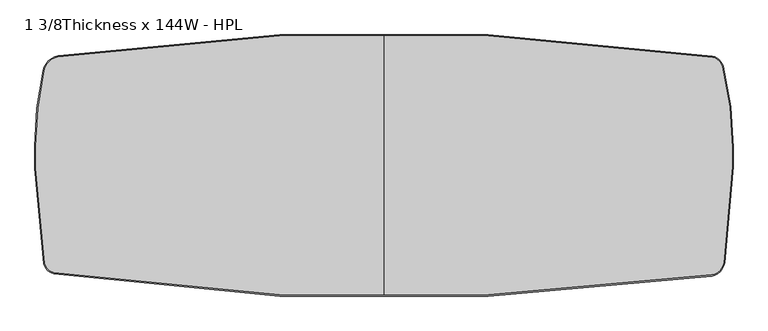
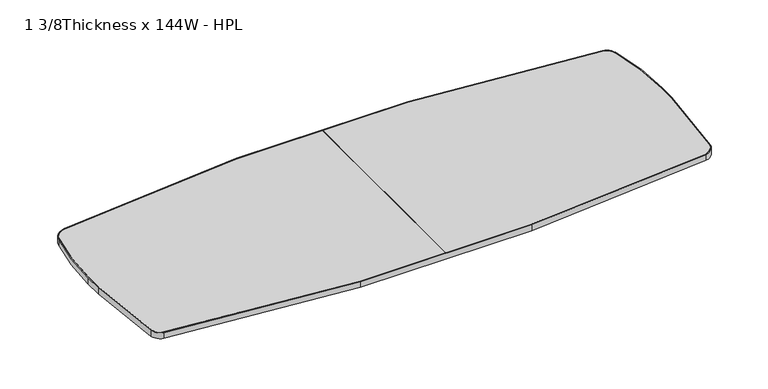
"""IFC4 building model written with IfcOpenShell, lengths in millimetres: furniture geometry, Steelcase - Groupwork - Table - Conference Table Top - Boat Shaped : 1 3/8Thickness x 144W - HPL."""

import ifcopenshell
import ifcopenshell.guid

model = None  # the IFC model being written
_history = None  # IfcOwnerHistory: only IFC2X3 demands one
_inside = {}  # id of a spatial element -> (the spatial element, [elements in it])
_under = {}  # id of a project, library or spatial element -> (it, [spatial elements below it])
_declared = {}  # id of a project -> (the project, [libraries it declares])
_typed = {}  # id of a type object -> (the type object, [elements of that type])
_made_of = {}  # id of a material, layer set ... -> (it, [elements and type objects made of it])


def new_model(schema):
    """Start an empty IFC model of exactly this schema.

    Asked for "IFC4X3", IfcOpenShell would pick the latest addendum, in which some entities
    have other attributes; the version numbers below select the first issue.
    IFC2X3 requires an IfcOwnerHistory on every rooted entity: one is made here for all.
    """
    global model, _history
    if schema == "IFC4X3":
        model = ifcopenshell.file(schema_version=(4, 3, 0, 0))
    else:
        model = ifcopenshell.file(schema=schema)
    _inside.clear()
    _under.clear()
    _declared.clear()
    _typed.clear()
    _made_of.clear()
    _history = None
    if model.schema == "IFC2X3":
        org = make("IfcOrganization", Name="unknown")
        user = make(
            "IfcPersonAndOrganization",
            ThePerson=make("IfcPerson", FamilyName="unknown"),
            TheOrganization=org,
        )
        app = make(
            "IfcApplication",
            ApplicationDeveloper=org,
            Version="unknown",
            ApplicationFullName="unknown",
            ApplicationIdentifier="unknown",
        )
        _history = make(
            "IfcOwnerHistory",
            OwningUser=user,
            OwningApplication=app,
            ChangeAction="ADDED",
            CreationDate=0,
        )
    return model


def make(cls, **values):
    """One entity of the class cls with the attributes given. An attribute that is None is left unset."""
    return model.create_entity(
        cls, **{name: value for name, value in values.items() if value is not None}
    )


def rooted(cls, **values):
    """An entity with a GlobalId (a new one), such as an element, a storey or a relation."""
    return make(cls, GlobalId=ifcopenshell.guid.new(), OwnerHistory=_history, **values)


def si_unit(unit_type, name, prefix=None):
    """IfcSIUnit, for example si_unit("LENGTHUNIT", "METRE", prefix="MILLI")."""
    return make("IfcSIUnit", UnitType=unit_type, Prefix=prefix, Name=name)


def assignment(units):
    """IfcUnitAssignment: the units of a project."""
    return None if units is None else make("IfcUnitAssignment", Units=units)


def point(xyz):
    """IfcCartesianPoint."""
    return None if xyz is None else make("IfcCartesianPoint", Coordinates=xyz)


def direction(xyz):
    """IfcDirection."""
    return None if xyz is None else make("IfcDirection", DirectionRatios=xyz)


def frame(location, z_axis=None, x_axis=None):
    """IfcAxis2Placement3D, a coordinate frame: its origin and axes. An axis left out is left unset."""
    return make(
        "IfcAxis2Placement3D",
        Location=point(location),
        Axis=direction(z_axis),
        RefDirection=direction(x_axis),
    )


def frame_2d(location, x_axis=None):
    """IfcAxis2Placement2D, a coordinate frame in the plane: its origin and x axis."""
    return make(
        "IfcAxis2Placement2D", Location=point(location), RefDirection=direction(x_axis)
    )


def origin():
    """The frame at (0, 0, 0) with its axes left unset."""
    return frame((0.0, 0.0, 0.0))


def place(relative_to, where):
    """IfcLocalPlacement: puts the frame where relative to a parent placement (None: the world)."""
    return make(
        "IfcLocalPlacement", PlacementRelTo=relative_to, RelativePlacement=where
    )


def context(
    kind, dimensions, precision=None, world=None, true_north=None, identifier=None
):
    """IfcGeometricRepresentationContext, for example the 3D "Model" context."""
    return make(
        "IfcGeometricRepresentationContext",
        ContextIdentifier=identifier,
        ContextType=kind,
        CoordinateSpaceDimension=dimensions,
        Precision=precision,
        WorldCoordinateSystem=world,
        TrueNorth=true_north,
    )


def project(units=None, contexts=None):
    """IfcProject with its units and contexts."""
    return rooted(
        "IfcProject",
        Name="project",
        RepresentationContexts=contexts,
        UnitsInContext=assignment(units),
    )


def spatial(cls, under=None, at=None, **own):
    """A site, building, storey or space (cls), placed at a placement, below another one or the project."""
    s = rooted(cls, ObjectPlacement=at, **own)
    if under is not None:
        _under.setdefault(under.id(), (under, []))[1].append(s)
    return s


def polyline(points):
    """IfcPolyline through the points."""
    return make("IfcPolyline", Points=[point(p) for p in points])


def circle_curve(where, radius):
    """IfcCircle in the frame where."""
    return make("IfcCircle", Position=where, Radius=radius)


def trimmed(basis, trim1, trim2, sense, master):
    """IfcTrimmedCurve: the piece of a basis curve between two trims."""
    return make(
        "IfcTrimmedCurve",
        BasisCurve=basis,
        Trim1=trim1,
        Trim2=trim2,
        SenseAgreement=sense,
        MasterRepresentation=master,
    )


def segment(curve, same_sense, transition):
    """IfcCompositeCurveSegment."""
    return make(
        "IfcCompositeCurveSegment",
        Transition=transition,
        SameSense=same_sense,
        ParentCurve=curve,
    )


def composite_curve(segments, self_intersect=None):
    """IfcCompositeCurve: segments joined end to end."""
    return make("IfcCompositeCurve", Segments=segments, SelfIntersect=self_intersect)


def outline(outer, holes=None, kind="AREA"):
    """IfcArbitraryClosedProfileDef: a profile drawn as a closed curve; with holes, ...WithVoids."""
    if holes is None:
        return make("IfcArbitraryClosedProfileDef", ProfileType=kind, OuterCurve=outer)
    return make(
        "IfcArbitraryProfileDefWithVoids",
        ProfileType=kind,
        OuterCurve=outer,
        InnerCurves=holes,
    )


def extrude(swept, where, along, depth):
    """IfcExtrudedAreaSolid: the profile swept, set in the frame where, extruded along a direction by depth."""
    return make(
        "IfcExtrudedAreaSolid",
        SweptArea=swept,
        Position=where,
        ExtrudedDirection=direction(along),
        Depth=depth,
    )


def shape(context_of_items, identifier, shape_type, items):
    """IfcShapeRepresentation: the items that make up one representation, for example the "Body"."""
    return make(
        "IfcShapeRepresentation",
        ContextOfItems=context_of_items,
        RepresentationIdentifier=identifier,
        RepresentationType=shape_type,
        Items=items,
    )


def source(mapping_origin, context_of_items, identifier, shape_type, items):
    """IfcRepresentationMap: a shape defined once, which mapped items show again and again."""
    return make(
        "IfcRepresentationMap",
        MappingOrigin=mapping_origin,
        MappedRepresentation=shape(context_of_items, identifier, shape_type, items),
    )


def transform(
    local_origin,
    x_axis=None,
    y_axis=None,
    z_axis=None,
    scale=None,
    scale2=None,
    scale3=None,
    uniform=True,
):
    """IfcCartesianTransformationOperator3D, or its non-uniform kind. x_axis, y_axis, z_axis: its Axis1, 2, 3."""
    if uniform:
        return make(
            "IfcCartesianTransformationOperator3D",
            Axis1=direction(x_axis),
            Axis2=direction(y_axis),
            LocalOrigin=point(local_origin),
            Scale=scale,
            Axis3=direction(z_axis),
        )
    return make(
        "IfcCartesianTransformationOperator3DnonUniform",
        Axis1=direction(x_axis),
        Axis2=direction(y_axis),
        LocalOrigin=point(local_origin),
        Scale=scale,
        Axis3=direction(z_axis),
        Scale2=scale2,
        Scale3=scale3,
    )


def mapped(mapping_source, mapping_target):
    """IfcMappedItem: shows the shape of a source again, moved by a transform."""
    return make(
        "IfcMappedItem", MappingSource=mapping_source, MappingTarget=mapping_target
    )


def made_of(thing, what):
    """Note that an element or type object is made of a material, layer set ...; save() writes the relation."""
    if what is not None:
        _made_of.setdefault(what.id(), (what, []))[1].append(thing)
    return thing


def element(
    cls,
    number,
    at=None,
    inside=None,
    cuts=None,
    type_object=None,
    material=None,
    context=None,
    identifier="Body",
    shape_type=None,
    held_by="IfcProductDefinitionShape",
    body=None,
    shapes=None,
    **own,
):
    """One element of the class cls, such as IfcWall. Its Tag is "e" and its number.

    at: its placement. inside: the storey or other place that contains it. cuts: it is an
    opening in that element (IfcRelVoidsElement). A single representation is given by context,
    identifier, shape_type and body (its items); several are given by shapes. held_by: the class
    of the entity that holds the representations. save() writes the other relations.
    """
    e = rooted(cls, Tag="e%d" % number, ObjectPlacement=at, **own)
    if body is not None:
        shapes = [shape(context, identifier, shape_type, body)]
    if shapes is not None:
        e.Representation = make(held_by, Representations=shapes)
    if inside is not None:
        _inside.setdefault(inside.id(), (inside, []))[1].append(e)
    if cuts is not None:
        rooted(
            "IfcRelVoidsElement", RelatingBuildingElement=cuts, RelatedOpeningElement=e
        )
    if type_object is not None:
        _typed.setdefault(type_object.id(), (type_object, []))[1].append(e)
    return made_of(e, material)


def aggregate(whole, parts):
    """IfcRelAggregates: a whole, such as a stair, and the parts it consists of."""
    return rooted("IfcRelAggregates", RelatingObject=whole, RelatedObjects=parts)


def save(model, path):
    """Write the relations noted so far, then the file.

    IfcRelAggregates (storeys below a building ...), IfcRelContainedInSpatialStructure (elements
    in a storey), IfcRelDefinesByType, IfcRelAssociatesMaterial and IfcRelDeclares: one each for
    every whole, place, type object, material and project.
    """
    for whole, parts in _under.values():
        aggregate(whole, parts)
    for where, things in _inside.values():
        rooted(
            "IfcRelContainedInSpatialStructure",
            RelatedElements=things,
            RelatingStructure=where,
        )
    for kind, things in _typed.values():
        rooted("IfcRelDefinesByType", RelatedObjects=things, RelatingType=kind)
    for what, things in _made_of.values():
        rooted("IfcRelAssociatesMaterial", RelatedObjects=things, RelatingMaterial=what)
    for by, libraries in _declared.values():
        rooted("IfcRelDeclares", RelatingContext=by, RelatedDefinitions=libraries)
    model.write(path)


def furniture_1_3_8thickness_x_144w_hpl_966f59d3(model_context):
    return source(origin(), model_context, "Body", "SweptSolid", [
        extrude(outline(composite_curve([segment(polyline([(732.5215864, 1219.2), (1706.3664788, 1219.2)]), True, "CONTINUOUS"), segment(trimmed(circle_curve(frame_2d((1706.3664788, -4333.0645975)), 5552.2645975), [point((1706.3664788, 1219.2))], [point((2753.049586, 1119.6500139))], False, "CARTESIAN"), True, "CONTINUOUS"), segment(trimmed(circle_curve(frame_2d((2741.0789069, 1057.2885447)), 63.5), [point((2753.049586, 1119.6500139))], [point((2802.6964806, 1072.635356))], False, "CARTESIAN"), True, "CONTINUOUS"), segment(trimmed(circle_curve(frame_2d((1275.0446392, 692.15)), 1574.3218396), [point((2802.6964806, 1072.635356))], [point((2849.3664788, 692.15))], False, "CARTESIAN"), True, "CONTINUOUS"), segment(polyline([(2849.3664788, 692.15), (2849.3664788, 603.25)]), True, "CONTINUOUS"), segment(trimmed(circle_curve(frame_2d((236.21328, 603.25)), 2613.1531989), [point((2849.3664788, 603.25))], [point((2810.6637937, 155.1716667))], False, "CARTESIAN"), True, "CONTINUOUS"), segment(trimmed(circle_curve(frame_2d((2735.5923707, 168.2377086)), 76.2), [point((2810.6637937, 155.1716667))], [point((2749.1125035, 93.2467357))], False, "CARTESIAN"), True, "CONTINUOUS"), segment(trimmed(circle_curve(frame_2d((1706.3664788, 5876.9576085)), 5876.9576085), [point((2749.1125035, 93.2467357))], [point((1706.3664788, 0.0))], False, "CARTESIAN"), True, "CONTINUOUS"), segment(polyline([(1706.3664788, 0.0), (732.5215864, 0.0)]), True, "CONTINUOUS"), segment(trimmed(circle_curve(frame_2d((732.5215864, 5379.0678276)), 5379.0678276), [point((732.5215864, 0.0))], [point((-321.932488, 104.3643005))], False, "CARTESIAN"), True, "CONTINUOUS"), segment(trimmed(circle_curve(frame_2d((-310.3444077, 162.3314413)), 59.1140678), [point((-321.932488, 104.3643005))], [point((-368.4143762, 151.2701673))], False, "CARTESIAN"), True, "CONTINUOUS"), segment(trimmed(circle_curve(frame_2d((1971.0729471, 596.9)), 2381.5513607), [point((-368.4143762, 151.2701673))], [point((-410.4784136, 596.9))], False, "CARTESIAN"), True, "CONTINUOUS"), segment(polyline([(-410.4784136, 596.9), (-410.4784136, 698.5)]), True, "CONTINUOUS"), segment(trimmed(circle_curve(frame_2d((1250.6455185, 698.5)), 1661.1239321), [point((-410.4784136, 698.5))], [point((-372.0975001, 1053.5180462))], False, "CARTESIAN"), True, "CONTINUOUS"), segment(trimmed(circle_curve(frame_2d((-285.2515692, 1034.5181969)), 88.9), [point((-372.0975001, 1053.5180462))], [point((-301.8372903, 1121.8573282))], False, "CARTESIAN"), True, "CONTINUOUS"), segment(trimmed(circle_curve(frame_2d((732.5215864, -4324.9969173)), 5544.1969173), [point((-301.8372903, 1121.8573282))], [point((732.5215864, 1219.2))], False, "CARTESIAN"), True, "CONTINUOUS")], self_intersect=False), holes=[composite_curve([segment(trimmed(circle_curve(frame_2d((2741.0789069, 1057.2885447)), 58.42), [point((2797.7670747, 1071.4076111))], [point((2752.0919316, 1114.6610964))], True, "CARTESIAN"), True, "CONTINUOUS"), segment(trimmed(circle_curve(frame_2d((1706.3664788, -4333.0645975)), 5547.1845975), [point((2752.0919316, 1114.6610964))], [point((1706.3664788, 1214.12))], True, "CARTESIAN"), True, "CONTINUOUS"), segment(polyline([(1706.3664788, 1214.12), (732.5215864, 1214.12)]), True, "CONTINUOUS"), segment(trimmed(circle_curve(frame_2d((732.5215864, -4324.9969173)), 5539.1169173), [point((732.5215864, 1214.12))], [point((-300.8895348, 1116.8665207))], True, "CARTESIAN"), True, "CONTINUOUS"), segment(trimmed(circle_curve(frame_2d((-285.2515692, 1034.5181969)), 83.82), [point((-300.8895348, 1116.8665207))], [point((-367.1348755, 1052.4323405))], True, "CARTESIAN"), True, "CONTINUOUS"), segment(trimmed(circle_curve(frame_2d((1250.6455185, 698.5)), 1656.0439321), [point((-367.1348755, 1052.4323405))], [point((-405.3984136, 698.5))], True, "CARTESIAN"), True, "CONTINUOUS"), segment(polyline([(-405.3984136, 698.5), (-405.3984136, 596.9)]), True, "CONTINUOUS"), segment(trimmed(circle_curve(frame_2d((1971.0729471, 596.9)), 2376.4713607), [point((-405.3984136, 596.9))], [point((-363.4241014, 152.220724))], True, "CARTESIAN"), True, "CONTINUOUS"), segment(trimmed(circle_curve(frame_2d((-310.3444077, 162.3314413)), 54.0340678), [point((-363.4241014, 152.220724))], [point((-320.9366599, 109.3457387))], True, "CARTESIAN"), True, "CONTINUOUS"), segment(trimmed(circle_curve(frame_2d((732.5215864, 5379.0678276)), 5373.9878276), [point((-320.9366599, 109.3457387))], [point((732.5215864, 5.08))], True, "CARTESIAN"), True, "CONTINUOUS"), segment(polyline([(732.5215864, 5.08), (1706.3664788, 5.08)]), True, "CONTINUOUS"), segment(trimmed(circle_curve(frame_2d((1706.3664788, 5876.9576085)), 5871.8776085), [point((1706.3664788, 5.08))], [point((2748.2111613, 98.2461339))], True, "CARTESIAN"), True, "CONTINUOUS"), segment(trimmed(circle_curve(frame_2d((2735.5923707, 168.2377086)), 71.12), [point((2748.2111613, 98.2461339))], [point((2805.6590322, 156.0427362))], True, "CARTESIAN"), True, "CONTINUOUS"), segment(trimmed(circle_curve(frame_2d((236.21328, 603.25)), 2608.0731989), [point((2805.6590322, 156.0427362))], [point((2844.2864788, 603.25))], True, "CARTESIAN"), True, "CONTINUOUS"), segment(polyline([(2844.2864788, 603.25), (2844.2864788, 692.15)]), True, "CONTINUOUS"), segment(trimmed(circle_curve(frame_2d((1275.0446392, 692.15)), 1569.2418396), [point((2844.2864788, 692.15))], [point((2797.7670747, 1071.4076111))], True, "CARTESIAN"), True, "CONTINUOUS")], self_intersect=False)]), frame((0.0, 0.0, 694.944), z_axis=(0.0, 0.0, 1.0), x_axis=(1.0, 0.0, 0.0)), (0.0, 0.0, 1.0), 35.052),
        extrude(outline(composite_curve([segment(polyline([(732.5215864, 1214.12), (1217.6125, 1214.12), (1217.6125, 5.08), (732.5215864, 5.08)]), True, "CONTINUOUS"), segment(trimmed(circle_curve(frame_2d((732.5215864, 5379.0678276)), 5373.9878276), [point((732.5215864, 5.08))], [point((-320.9366599, 109.3457387))], False, "CARTESIAN"), True, "CONTINUOUS"), segment(trimmed(circle_curve(frame_2d((-310.3444077, 162.3314413)), 54.0340678), [point((-320.9366599, 109.3457387))], [point((-363.4241014, 152.220724))], False, "CARTESIAN"), True, "CONTINUOUS"), segment(trimmed(circle_curve(frame_2d((1971.0729471, 596.9)), 2376.4713607), [point((-363.4241014, 152.220724))], [point((-405.3984136, 596.9))], False, "CARTESIAN"), True, "CONTINUOUS"), segment(polyline([(-405.3984136, 596.9), (-405.3984136, 698.5)]), True, "CONTINUOUS"), segment(trimmed(circle_curve(frame_2d((1250.6455185, 698.5)), 1656.0439321), [point((-405.3984136, 698.5))], [point((-367.1348755, 1052.4323405))], False, "CARTESIAN"), True, "CONTINUOUS"), segment(trimmed(circle_curve(frame_2d((-285.2515692, 1034.5181969)), 83.82), [point((-367.1348755, 1052.4323405))], [point((-300.8895348, 1116.8665207))], False, "CARTESIAN"), True, "CONTINUOUS"), segment(trimmed(circle_curve(frame_2d((732.5215864, -4324.9969173)), 5539.1169173), [point((-300.8895348, 1116.8665207))], [point((732.5215864, 1214.12))], False, "CARTESIAN"), True, "CONTINUOUS")], self_intersect=False)), frame((0.0, 0.0, 694.944), z_axis=(0.0, 0.0, 1.0), x_axis=(1.0, 0.0, 0.0)), (0.0, 0.0, 1.0), 35.052),
        extrude(outline(composite_curve([segment(trimmed(circle_curve(frame_2d((2741.0789069, 1057.2885447)), 58.42), [point((2752.0919316, 1114.6610964))], [point((2797.7670747, 1071.4076111))], False, "CARTESIAN"), True, "CONTINUOUS"), segment(trimmed(circle_curve(frame_2d((1275.0446392, 692.15)), 1569.2418396), [point((2797.7670747, 1071.4076111))], [point((2844.2864788, 692.15))], False, "CARTESIAN"), True, "CONTINUOUS"), segment(polyline([(2844.2864788, 692.15), (2844.2864788, 603.25)]), True, "CONTINUOUS"), segment(trimmed(circle_curve(frame_2d((236.21328, 603.25)), 2608.0731989), [point((2844.2864788, 603.25))], [point((2805.6590322, 156.0427362))], False, "CARTESIAN"), True, "CONTINUOUS"), segment(trimmed(circle_curve(frame_2d((2735.5923707, 168.2377086)), 71.12), [point((2805.6590322, 156.0427362))], [point((2748.2111613, 98.2461339))], False, "CARTESIAN"), True, "CONTINUOUS"), segment(trimmed(circle_curve(frame_2d((1706.3664788, 5876.9576085)), 5871.8776085), [point((2748.2111613, 98.2461339))], [point((1706.3664788, 5.08))], False, "CARTESIAN"), True, "CONTINUOUS"), segment(polyline([(1706.3664788, 5.08), (1220.7875, 5.08), (1220.7875, 1214.12), (1706.3664788, 1214.12)]), True, "CONTINUOUS"), segment(trimmed(circle_curve(frame_2d((1706.3664788, -4333.0645975)), 5547.1845975), [point((1706.3664788, 1214.12))], [point((2752.0919316, 1114.6610964))], False, "CARTESIAN"), True, "CONTINUOUS")], self_intersect=False)), frame((0.0, 0.0, 694.944), z_axis=(0.0, 0.0, 1.0), x_axis=(1.0, 0.0, 0.0)), (0.0, 0.0, 1.0), 35.052),
    ])


if __name__ == "__main__":
    model = new_model("IFC4")
    model_context = context("Model", 3, world=origin())
    ifc_project = project(units=[si_unit("LENGTHUNIT", "METRE", prefix="MILLI")], contexts=[model_context])
    site = spatial("IfcSite", under=ifc_project)
    building = spatial("IfcBuilding", under=site)
    placement = place(None, origin())
    furniture_1_3_8thickness_x_144w_hpl_shape = furniture_1_3_8thickness_x_144w_hpl_966f59d3(model_context)
    element("IfcFurniture", 1, ObjectType="Steelcase - Groupwork - Table - Conference Table Top - Boat Shaped : 1 3/8Thickness x 144W - HPL", at=placement, inside=building, context=model_context, shape_type="MappedRepresentation", body=[
        mapped(furniture_1_3_8thickness_x_144w_hpl_shape, transform((0.0, 0.0, 0.0), x_axis=(1.0, 0.0, 0.0), y_axis=(0.0, 1.0, 0.0), z_axis=(0.0, 0.0, 1.0))),
    ])
    save(model, "model.ifc")
